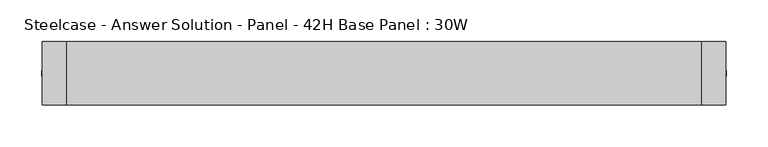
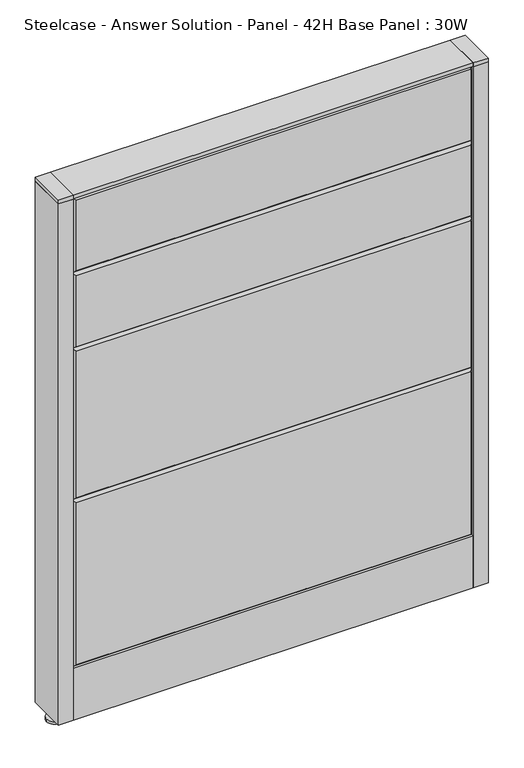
"""IFC4 building model written with IfcOpenShell, lengths in millimetres: furniture geometry, Steelcase - Answer Solution - Panel - 42H Base Panel : 30W."""

from ifc_helpers import new_model, si_unit, point, frame, frame_2d, origin, place, context, project, spatial, polyline, circle_curve, trimmed, segment, composite_curve, outline, extrude, faceted_brep, source, transform, mapped, element, save


def steelcase_answer_solution_panel_42h_base_panel_30w_76fafdb3(model_context):
    return source(origin(), model_context, "Body", "SolidModel", [
        extrude(outline(composite_curve([segment(trimmed(circle_curve(frame_2d((395.224, 0.0039657)), 5.08), [point((400.304, 0.0039657))], [point((390.144, 0.0039657))], False, "CARTESIAN"), True, "CONTINUOUS"), segment(trimmed(circle_curve(frame_2d((395.224, 0.0039657)), 5.08), [point((390.144, 0.0039657))], [point((400.304, 0.0039657))], False, "CARTESIAN"), True, "CONTINUOUS")], self_intersect=False)), frame((0.0, 0.0, 5.0799671), z_axis=(0.0, 0.0, 1.0), x_axis=(1.0, 0.0, 0.0)), (0.0, 0.0, 1.0), 10.414),
        extrude(outline(composite_curve([segment(trimmed(circle_curve(frame_2d((395.224, 0.0039657)), 15.24), [point((410.464, 0.0039657))], [point((379.984, 0.0039657))], False, "CARTESIAN"), True, "CONTINUOUS"), segment(trimmed(circle_curve(frame_2d((395.224, 0.0039657)), 15.24), [point((379.984, 0.0039657))], [point((410.464, 0.0039657))], False, "CARTESIAN"), True, "CONTINUOUS")], self_intersect=False)), frame((0.0, 0.0, -3.29e-05), z_axis=(0.0, 0.0, 1.0), x_axis=(1.0, 0.0, 0.0)), (0.0, 0.0, 1.0), 5.08),
        extrude(outline(polyline([(409.575, 38.1039851), (409.575, -38.0960149), (381.0, -38.0960149), (381.0, 38.1039851), (409.575, 38.1039851)])), frame((0.0, 0.0, 1065.8348), z_axis=(0.0, 0.0, 1.0), x_axis=(1.0, 0.0, 0.0)), (0.0, 0.0, 1.0), 7.3151671),
        extrude(outline(polyline([(409.575, 38.1039851), (409.575, -38.0960149), (381.0, -38.0960149), (381.0, 38.1039851), (409.575, 38.1039851)])), frame((0.0, 0.0, 15.4939671), z_axis=(0.0, 0.0, 1.0), x_axis=(1.0, 0.0, 0.0)), (0.0, 0.0, 1.0), 1050.3408329),
        extrude(outline(composite_curve([segment(trimmed(circle_curve(frame_2d((-395.224, 0.0039657)), 5.08), [point((-400.304, 0.0039657))], [point((-390.144, 0.0039657))], False, "CARTESIAN"), True, "CONTINUOUS"), segment(trimmed(circle_curve(frame_2d((-395.224, 0.0039657)), 5.08), [point((-390.144, 0.0039657))], [point((-400.304, 0.0039657))], False, "CARTESIAN"), True, "CONTINUOUS")], self_intersect=False)), frame((0.0, 0.0, 5.0799671), z_axis=(0.0, 0.0, 1.0), x_axis=(1.0, 0.0, 0.0)), (0.0, 0.0, 1.0), 10.414),
        extrude(outline(composite_curve([segment(trimmed(circle_curve(frame_2d((-395.224, 0.0039657)), 15.24), [point((-410.464, 0.0039657))], [point((-379.984, 0.0039657))], False, "CARTESIAN"), True, "CONTINUOUS"), segment(trimmed(circle_curve(frame_2d((-395.224, 0.0039657)), 15.24), [point((-379.984, 0.0039657))], [point((-410.464, 0.0039657))], False, "CARTESIAN"), True, "CONTINUOUS")], self_intersect=False)), frame((0.0, 0.0, -3.29e-05), z_axis=(0.0, 0.0, 1.0), x_axis=(1.0, 0.0, 0.0)), (0.0, 0.0, 1.0), 5.08),
        extrude(outline(polyline([(-409.575, 38.1039851), (-381.0, 38.1039851), (-381.0, -38.0960149), (-409.575, -38.0960149), (-409.575, 38.1039851)])), frame((0.0, 0.0, 1065.8348), z_axis=(0.0, 0.0, 1.0), x_axis=(1.0, 0.0, 0.0)), (0.0, 0.0, 1.0), 7.3151671),
        extrude(outline(polyline([(-409.575, 38.1039851), (-381.0, 38.1039851), (-381.0, -38.0960149), (-409.575, -38.0960149), (-409.575, 38.1039851)])), frame((0.0, 0.0, 15.4939671), z_axis=(0.0, 0.0, 1.0), x_axis=(1.0, 0.0, 0.0)), (0.0, 0.0, 1.0), 1050.3408329),
        faceted_brep([(-376.174, 38.1635011, 1061.974), (376.174, 38.1635011, 1061.974), (376.174, 38.1635011, 919.226), (-376.174, 38.1635011, 919.226), (-381.0, 33.3375011, 1066.8), (-381.0, 33.3375011, 914.4), (381.0, 33.3375011, 914.4), (381.0, 33.3375011, 1066.8)], [[[0, 1, 2, 3]], [[4, 5, 6, 7]], [[4, 7, 1, 0]], [[7, 6, 2, 1]], [[6, 5, 3, 2]], [[5, 4, 0, 3]]]),
        faceted_brep([(-376.174, 38.1635011, 909.574), (376.174, 38.1635011, 909.574), (376.174, 38.1635011, 766.826), (-376.174, 38.1635011, 766.826), (-381.0, 33.3375011, 914.4), (-381.0, 33.3375011, 762.0), (381.0, 33.3375011, 762.0), (381.0, 33.3375011, 914.4)], [[[0, 1, 2, 3]], [[4, 5, 6, 7]], [[4, 7, 1, 0]], [[7, 6, 2, 1]], [[6, 5, 3, 2]], [[5, 4, 0, 3]]]),
        faceted_brep([(-376.174, 38.1635011, 757.174), (376.174, 38.1635011, 757.174), (376.174, 38.1635011, 462.026), (-376.174, 38.1635011, 462.026), (-381.0, 33.3375011, 762.0), (-381.0, 33.3375011, 457.2), (381.0, 33.3375011, 457.2), (381.0, 33.3375011, 762.0)], [[[0, 1, 2, 3]], [[4, 5, 6, 7]], [[4, 7, 1, 0]], [[7, 6, 2, 1]], [[6, 5, 3, 2]], [[5, 4, 0, 3]]]),
        faceted_brep([(-376.174, 38.1635011, 452.374), (376.174, 38.1635011, 452.374), (376.174, 38.1635011, 125.476), (-376.174, 38.1635011, 125.476), (-381.0, 33.3375011, 457.2), (-381.0, 33.3375011, 120.65), (381.0, 33.3375011, 120.65), (381.0, 33.3375011, 457.2)], [[[0, 1, 2, 3]], [[4, 5, 6, 7]], [[4, 7, 1, 0]], [[7, 6, 2, 1]], [[6, 5, 3, 2]], [[5, 4, 0, 3]]]),
        faceted_brep([(376.174, -38.1635011, 1061.974), (-376.174, -38.1635011, 1061.974), (-376.174, -38.1635011, 919.226), (376.174, -38.1635011, 919.226), (381.0, -33.3375011, 1066.8), (381.0, -33.3375011, 914.4), (-381.0, -33.3375011, 914.4), (-381.0, -33.3375011, 1066.8)], [[[0, 1, 2, 3]], [[4, 5, 6, 7]], [[4, 7, 1, 0]], [[7, 6, 2, 1]], [[6, 5, 3, 2]], [[5, 4, 0, 3]]]),
        faceted_brep([(376.174, -38.1635011, 909.574), (-376.174, -38.1635011, 909.574), (-376.174, -38.1635011, 766.826), (376.174, -38.1635011, 766.826), (381.0, -33.3375011, 914.4), (381.0, -33.3375011, 762.0), (-381.0, -33.3375011, 762.0), (-381.0, -33.3375011, 914.4)], [[[0, 1, 2, 3]], [[4, 5, 6, 7]], [[4, 7, 1, 0]], [[7, 6, 2, 1]], [[6, 5, 3, 2]], [[5, 4, 0, 3]]]),
        faceted_brep([(376.174, -38.1635011, 757.174), (-376.174, -38.1635011, 757.174), (-376.174, -38.1635011, 462.026), (376.174, -38.1635011, 462.026), (381.0, -33.3375011, 762.0), (381.0, -33.3375011, 457.2), (-381.0, -33.3375011, 457.2), (-381.0, -33.3375011, 762.0)], [[[0, 1, 2, 3]], [[4, 5, 6, 7]], [[4, 7, 1, 0]], [[7, 6, 2, 1]], [[6, 5, 3, 2]], [[5, 4, 0, 3]]]),
        faceted_brep([(376.174, -38.1635011, 452.374), (-376.174, -38.1635011, 452.374), (-376.174, -38.1635011, 125.476), (376.174, -38.1635011, 125.476), (381.0, -33.3375011, 457.2), (381.0, -33.3375011, 120.65), (-381.0, -33.3375011, 120.65), (-381.0, -33.3375011, 457.2)], [[[0, 1, 2, 3]], [[4, 5, 6, 7]], [[4, 7, 1, 0]], [[7, 6, 2, 1]], [[6, 5, 3, 2]], [[5, 4, 0, 3]]]),
        extrude(outline(polyline([(381.0, 38.1000194), (381.0, -38.1000194), (-381.0, -38.1000194), (-381.0, 38.1000194), (381.0, 38.1000194)])), frame((0.0, 0.0, 1066.8), z_axis=(0.0, 0.0, 1.0), x_axis=(1.0, 0.0, 0.0)), (0.0, 0.0, 1.0), 6.35),
        extrude(outline(polyline([(25.4000011, 119.8575157), (25.4000011, 120.65), (38.1000194, 120.65), (38.1000194, 15.494), (37.3075215, 15.494), (37.3075215, 119.8575157), (25.4000011, 119.8575157)])), frame((-381.0, 0.0, 0.0), z_axis=(1.0, 0.0, 0.0), x_axis=(0.0, 1.0, 0.0)), (0.0, 0.0, 1.0), 762.0),
        extrude(outline(polyline([(-25.4000011, 119.8575157), (-37.3075215, 119.8575157), (-37.3075215, 15.494), (-38.1000194, 15.494), (-38.1000194, 120.65), (-25.4000011, 120.65), (-25.4000011, 119.8575157)])), frame((-381.0, 0.0, 0.0), z_axis=(1.0, 0.0, 0.0), x_axis=(0.0, 1.0, 0.0)), (0.0, 0.0, 1.0), 762.0),
    ])


if __name__ == "__main__":
    model = new_model("IFC4")
    model_context = context("Model", 3, world=origin())
    ifc_project = project(units=[si_unit("LENGTHUNIT", "METRE", prefix="MILLI")], contexts=[model_context])
    site = spatial("IfcSite", under=ifc_project)
    building = spatial("IfcBuilding", under=site)
    placement = place(None, origin())
    steelcase_answer_solution_panel_42h_base_panel_30w_shape = steelcase_answer_solution_panel_42h_base_panel_30w_76fafdb3(model_context)
    element("IfcFurniture", 1, ObjectType="Steelcase - Answer Solution - Panel - 42H Base Panel : 30W", at=placement, inside=building, context=model_context, shape_type="MappedRepresentation", body=[
        mapped(steelcase_answer_solution_panel_42h_base_panel_30w_shape, transform((0.0, 0.0, 0.0), x_axis=(1.0, 0.0, 0.0), y_axis=(0.0, 1.0, 0.0), z_axis=(0.0, 0.0, 1.0))),
    ])
    save(model, "model.ifc")
